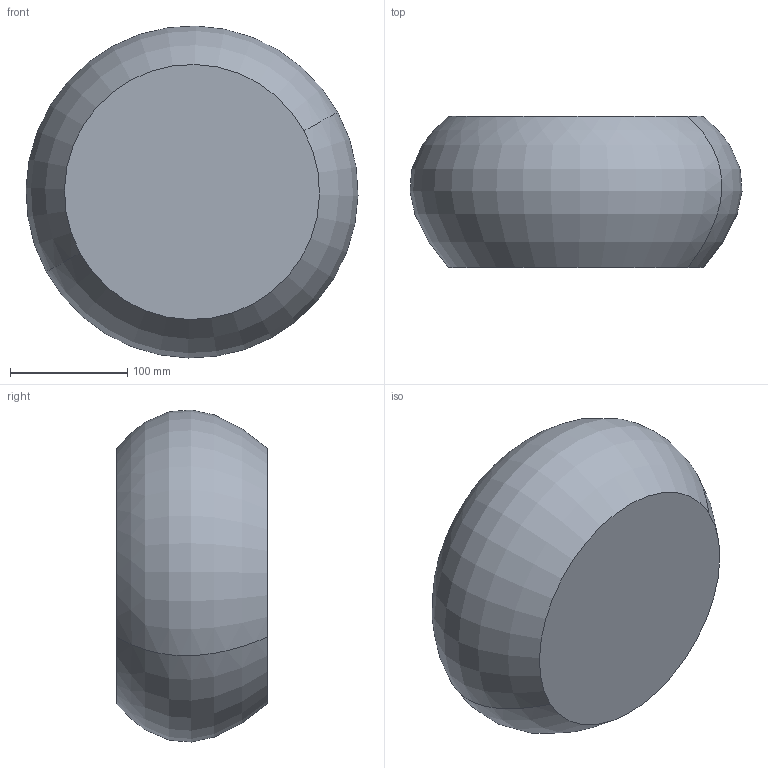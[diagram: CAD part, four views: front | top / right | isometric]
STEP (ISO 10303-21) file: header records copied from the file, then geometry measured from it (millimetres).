
FILE_DESCRIPTION(('CATIA V5 STEP Exchange'),'2;1');
FILE_NAME('C:\_Andres\UNIVERSIDAD\IQS\ASIGNATURAS\DAO\EXF\EXF-15161c\1original\Postius_Echeverri_Ej10-decora_v19.stp','2016-03-04T22:24:13+00:00',('none'),('none'),'CATIA Version 5 Release 20 SP 1 (IN-10)','CATIA V5 STEP AP203','none');
FILE_SCHEMA(('CONFIG_CONTROL_DESIGN'));
Length unit declared in the file: millimetre
Products named in the file (1): Postius_Echeverri_Ej10-decora_v19
Bounding box: 283.73 x 129 x 283.73 mm (x, y, z)
Volume: 6999901.6 mm3; surface area: 196380.4 mm2
Topology: 1 solids, 1 shells, 4 faces, 6 edges, 4 vertices
Faces by surface type: revolution 2, plane 2
Entity records: 166 total; most frequent: CARTESIAN_POINT 50, DIRECTION 12, ORIENTED_EDGE 12, AXIS2_PLACEMENT_3D 8, EDGE_CURVE 6, ADVANCED_FACE 4, B_SPLINE_CURVE_WITH_KNOTS 4, CC_DESIGN_PERSON_AND_ORGANIZATION_ASSIGNMENT 4
